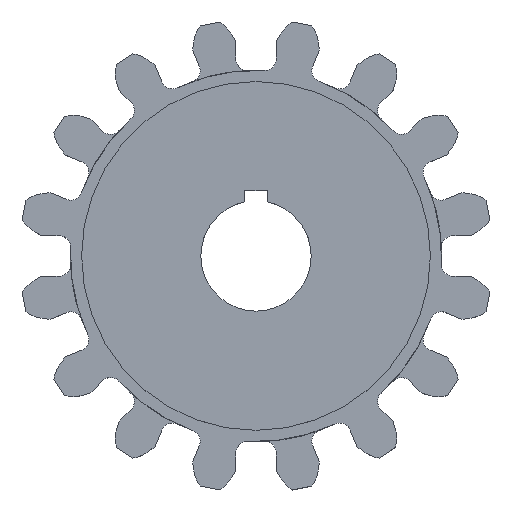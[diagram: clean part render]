
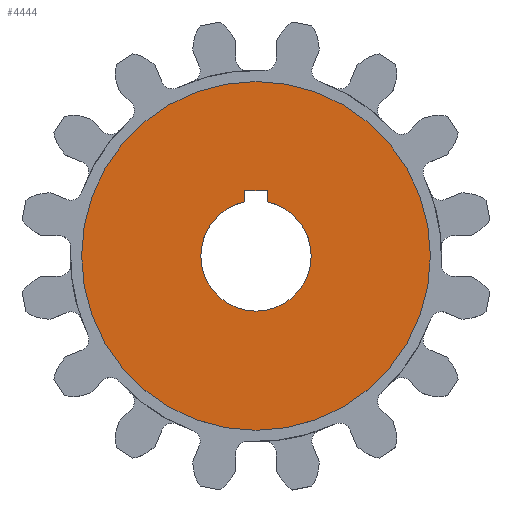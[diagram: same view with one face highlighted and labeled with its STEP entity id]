
A CAD part, top view. The second image highlights one B-rep face of the part: STEP entity #4444.
In plain terms, the highlighted planar face has unit normal (0, 0, 1).
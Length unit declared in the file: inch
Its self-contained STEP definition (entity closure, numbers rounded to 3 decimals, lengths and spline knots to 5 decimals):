
#1135=CARTESIAN_POINT('',(0.,0.,0.41));
#1136=DIRECTION('',(0.,0.,1.));
#1137=DIRECTION('',(1.,0.,0.));
#1138=AXIS2_PLACEMENT_3D('',#1135,#1136,#1137);
#1140=CARTESIAN_POINT('',(0.,0.,0.41));
#1141=DIRECTION('',(0.,0.,1.));
#1142=DIRECTION('',(-1.,0.,0.));
#1143=AXIS2_PLACEMENT_3D('',#1140,#1141,#1142);
#1145=DIRECTION('',(0.,-1.,0.));
#1146=VECTOR('',#1145,0.125);
#1147=CARTESIAN_POINT('',(-0.125,0.73737,0.41));
#1148=LINE('',#1147,#1146);
#1149=CARTESIAN_POINT('',(0.,0.,0.41));
#1150=DIRECTION('',(0.,0.,1.));
#1151=DIRECTION('',(-0.2,0.98,0.));
#1152=AXIS2_PLACEMENT_3D('',#1149,#1150,#1151);
#1154=DIRECTION('',(0.,1.,0.));
#1155=VECTOR('',#1154,0.125);
#1156=CARTESIAN_POINT('',(0.125,0.61237,0.41));
#1157=LINE('',#1156,#1155);
#1158=DIRECTION('',(-1.,0.,0.));
#1159=VECTOR('',#1158,0.25);
#1160=CARTESIAN_POINT('',(0.125,0.73737,0.41));
#1161=LINE('',#1160,#1159);
#2563=CARTESIAN_POINT('',(1.975,0.,0.41));
#2564=CARTESIAN_POINT('',(-1.975,0.,0.41));
#2565=VERTEX_POINT('',#2563);
#2566=VERTEX_POINT('',#2564);
#2887=CARTESIAN_POINT('',(-0.125,0.73737,0.41));
#2888=CARTESIAN_POINT('',(-0.125,0.61237,0.41));
#2889=VERTEX_POINT('',#2887);
#2890=VERTEX_POINT('',#2888);
#2891=CARTESIAN_POINT('',(0.125,0.61237,0.41));
#2892=VERTEX_POINT('',#2891);
#2893=CARTESIAN_POINT('',(0.125,0.73737,0.41));
#2894=VERTEX_POINT('',#2893);
#4425=CARTESIAN_POINT('',(0.,0.,0.41));
#4426=DIRECTION('',(0.,0.,1.));
#4427=DIRECTION('',(1.,0.,0.));
#4428=AXIS2_PLACEMENT_3D('',#4425,#4426,#4427);
#4429=PLANE('',#4428);
#4430=ORIENTED_EDGE('',*,*,#4375,.F.);
#4431=ORIENTED_EDGE('',*,*,#4405,.F.);
#4432=EDGE_LOOP('',(#4430,#4431));
#4433=FACE_OUTER_BOUND('',#4432,.F.);
#4435=ORIENTED_EDGE('',*,*,#4434,.T.);
#4437=ORIENTED_EDGE('',*,*,#4436,.T.);
#4439=ORIENTED_EDGE('',*,*,#4438,.T.);
#4441=ORIENTED_EDGE('',*,*,#4440,.T.);
#4442=EDGE_LOOP('',(#4435,#4437,#4439,#4441));
#4443=FACE_BOUND('',#4442,.F.);
#4444=ADVANCED_FACE('',(#4433,#4443),#4429,.T.);
#1139=CIRCLE('',#1138,1.975);
#1144=CIRCLE('',#1143,1.975);
#1153=CIRCLE('',#1152,0.625);
#4375=EDGE_CURVE('',#2565,#2566,#1139,.T.);
#4405=EDGE_CURVE('',#2566,#2565,#1144,.T.);
#4434=EDGE_CURVE('',#2889,#2890,#1148,.T.);
#4436=EDGE_CURVE('',#2890,#2892,#1153,.T.);
#4438=EDGE_CURVE('',#2892,#2894,#1157,.T.);
#4440=EDGE_CURVE('',#2894,#2889,#1161,.T.);
